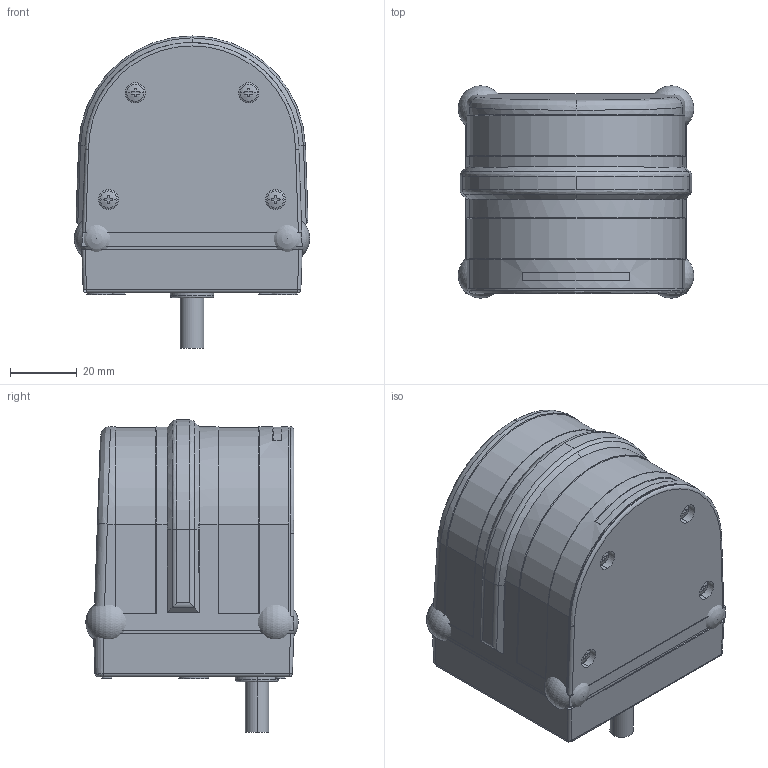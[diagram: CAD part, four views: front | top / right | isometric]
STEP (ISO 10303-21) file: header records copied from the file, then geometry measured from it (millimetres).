
FILE_DESCRIPTION (( 'STEP AP203' ), '1' );
FILE_NAME ('PBS-3D.STEP', '2009-10-30T07:27:04', ( 'hokuyo' ), ( '' ), 'SwSTEP 2.0', 'SolidWorks 2009', '' );
FILE_SCHEMA (( 'CONFIG_CONTROL_DESIGN' ));
Length unit declared in the file: millimetre
Products named in the file (1): PBS-3D
Bounding box: 70.53 x 63.64 x 93.5 mm (x, y, z)
Volume: 239825.1 mm3; surface area: 35488.5 mm2
Topology: 1 solids, 1 shells, 443 faces, 1184 edges, 736 vertices
Faces by surface type: plane 219, cylinder 107, cone 72, bspline 27, sphere 18
Entity records: 15178 total; most frequent: CARTESIAN_POINT 4897, ORIENTED_EDGE 2228, DIRECTION 2030, EDGE_CURVE 1114, AXIS2_PLACEMENT_3D 767, VERTEX_POINT 700, VECTOR 496, LINE 496
